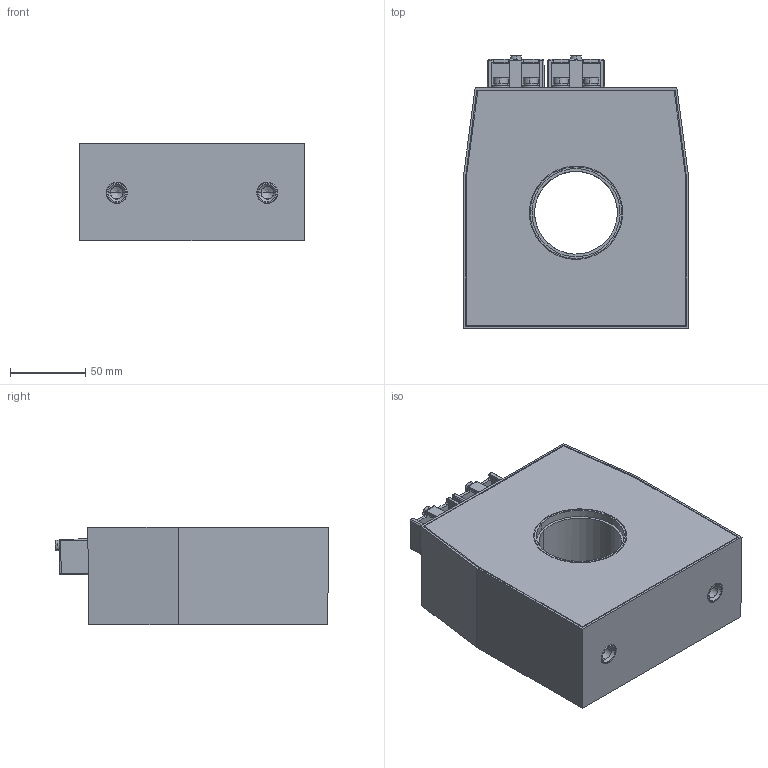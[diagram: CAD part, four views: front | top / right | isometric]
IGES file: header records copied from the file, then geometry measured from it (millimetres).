
Start section: IGES file generated from Kompas f.0 for Windows drawing by the IGES translator from Ascon Ltd., translator version IGESOUT-5.1.
Global section: file name: C:\Ðàáîòà\Èçâåùåíèÿ 5\ÒØÏ-ÍÒÇ-0.66-61...,71...,81... (ñáîðíûé)\Âåðñèÿ îò 21.05.24\3D ìîäåëü\ÒØÏ-ÍÒÇ-0,66-71À\ÒØÏ-ÍÒÇ-0,66-71À (55 ìì, 1-é ãàáàðèò).igs; native system: Kompas( 32 bit ) for Windows; preprocessor: 1.0; author: 123; organization: Microsoft; date: -17750727:093731; units: millimetre
Bounding box: 150 x 181.53 x 65 mm (x, y, z)
Volume: 348864.6 mm3; surface area: 209322.9 mm2
Topology: 27 solids, 27 shells, 527 faces, 1211 edges, 741 vertices
Faces by surface type: revolution 304, bspline 223
